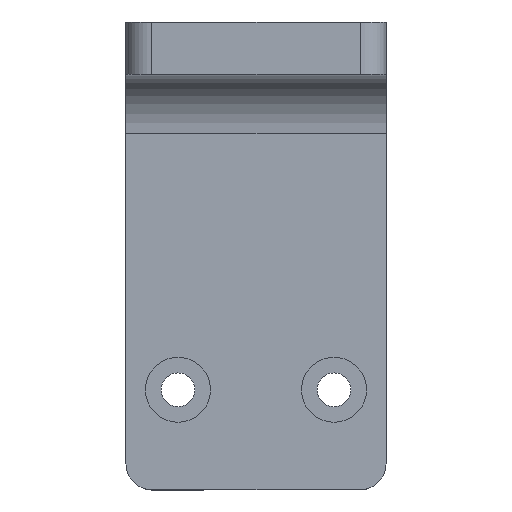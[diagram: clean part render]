
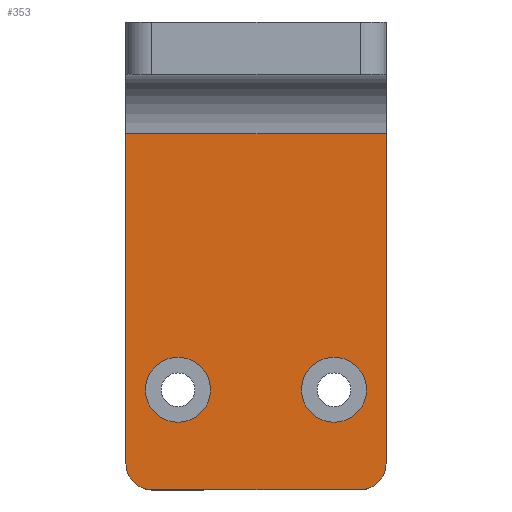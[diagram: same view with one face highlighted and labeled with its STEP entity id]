
A CAD part, top view. The second image highlights one B-rep face of the part: STEP entity #353.
In plain terms, the highlighted planar face has unit normal (0, 0, 1).
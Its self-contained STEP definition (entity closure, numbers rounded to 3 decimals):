
#19=FACE_BOUND('',#70,.T.);
#20=FACE_BOUND('',#71,.T.);
#29=PLANE('',#405);
#45=FACE_OUTER_BOUND('',#69,.T.);
#69=EDGE_LOOP('',(#301,#302,#303,#304,#305,#306));
#70=EDGE_LOOP('',(#307));
#71=EDGE_LOOP('',(#308));
#82=LINE('',#546,#110);
#90=LINE('',#569,#118);
#92=LINE('',#572,#120);
#100=LINE('',#610,#128);
#110=VECTOR('',#434,10.);
#118=VECTOR('',#452,10.);
#120=VECTOR('',#456,10.);
#128=VECTOR('',#504,1000.);
#134=CIRCLE('',#375,2.);
#136=CIRCLE('',#378,2.);
#151=CIRCLE('',#406,2.5);
#152=CIRCLE('',#407,2.5);
#155=VERTEX_POINT('',#528);
#156=VERTEX_POINT('',#530);
#159=VERTEX_POINT('',#537);
#160=VERTEX_POINT('',#539);
#162=VERTEX_POINT('',#545);
#172=VERTEX_POINT('',#567);
#183=VERTEX_POINT('',#611);
#184=VERTEX_POINT('',#613);
#187=EDGE_CURVE('',#156,#155,#134,.T.);
#191=EDGE_CURVE('',#160,#159,#136,.T.);
#194=EDGE_CURVE('',#156,#162,#82,.T.);
#206=EDGE_CURVE('',#172,#159,#90,.T.);
#208=EDGE_CURVE('',#162,#172,#92,.T.);
#226=EDGE_CURVE('',#160,#155,#100,.T.);
#227=EDGE_CURVE('',#183,#183,#151,.T.);
#228=EDGE_CURVE('',#184,#184,#152,.T.);
#301=ORIENTED_EDGE('',*,*,#208,.F.);
#302=ORIENTED_EDGE('',*,*,#194,.F.);
#303=ORIENTED_EDGE('',*,*,#187,.T.);
#304=ORIENTED_EDGE('',*,*,#226,.F.);
#305=ORIENTED_EDGE('',*,*,#191,.T.);
#306=ORIENTED_EDGE('',*,*,#206,.F.);
#307=ORIENTED_EDGE('',*,*,#227,.F.);
#308=ORIENTED_EDGE('',*,*,#228,.F.);
#353=ADVANCED_FACE('',(#45,#19,#20),#29,.T.);
#375=AXIS2_PLACEMENT_3D('',#531,#420,#421);
#378=AXIS2_PLACEMENT_3D('',#540,#428,#429);
#405=AXIS2_PLACEMENT_3D('',#609,#502,#503);
#406=AXIS2_PLACEMENT_3D('',#612,#505,#506);
#407=AXIS2_PLACEMENT_3D('',#614,#507,#508);
#420=DIRECTION('center_axis',(0.,0.,
1.));
#421=DIRECTION('ref_axis',(0.,-1.,0.));
#428=DIRECTION('center_axis',(0.,0.,
1.));
#429=DIRECTION('ref_axis',(0.,-1.,0.));
#434=DIRECTION('',(0.,1.,0.));
#452=DIRECTION('',(0.,-1.,0.));
#456=DIRECTION('',(1.,0.,0.));
#502=DIRECTION('center_axis',(0.,0.,
1.));
#503=DIRECTION('ref_axis',(0.,-1.,0.));
#504=DIRECTION('',(-1.,0.,0.));
#505=DIRECTION('center_axis',(0.,0.,
1.));
#506=DIRECTION('ref_axis',(0.,-1.,0.));
#507=DIRECTION('center_axis',(0.,0.,
1.));
#508=DIRECTION('ref_axis',(0.,-1.,0.));
#528=CARTESIAN_POINT('',(-8.,8.1,61.1));
#530=CARTESIAN_POINT('',(-10.,10.1,61.1));
#531=CARTESIAN_POINT('Origin',(-8.,10.1,61.1));
#537=CARTESIAN_POINT('',(10.,10.1,61.1));
#539=CARTESIAN_POINT('',(8.,8.1,61.1));
#540=CARTESIAN_POINT('Origin',(8.,10.1,61.1));
#545=CARTESIAN_POINT('',(-10.,35.5,61.1));
#546=CARTESIAN_POINT('',(-10.,17.3,61.1));
#567=CARTESIAN_POINT('',(10.,35.5,61.1));
#569=CARTESIAN_POINT('',(10.,17.3,61.1));
#572=CARTESIAN_POINT('',(0.,35.5,61.1));
#609=CARTESIAN_POINT('Origin',(0.,15.3,61.1));
#610=CARTESIAN_POINT('',(0.,8.1,61.1));
#611=CARTESIAN_POINT('',(-6.,18.3,61.1));
#612=CARTESIAN_POINT('Origin',(-6.,15.8,61.1));
#613=CARTESIAN_POINT('',(6.,18.3,61.1));
#614=CARTESIAN_POINT('Origin',(6.,15.8,61.1));
